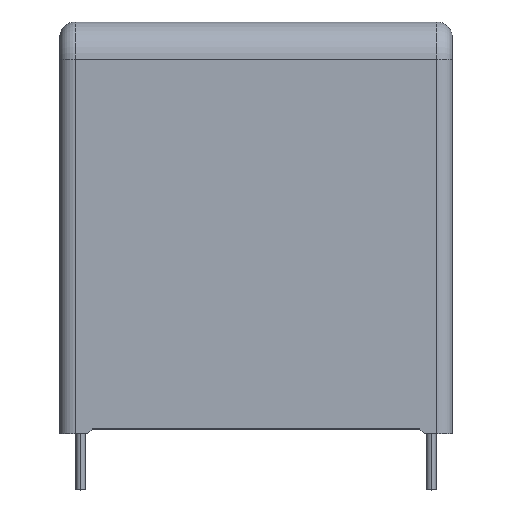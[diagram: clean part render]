
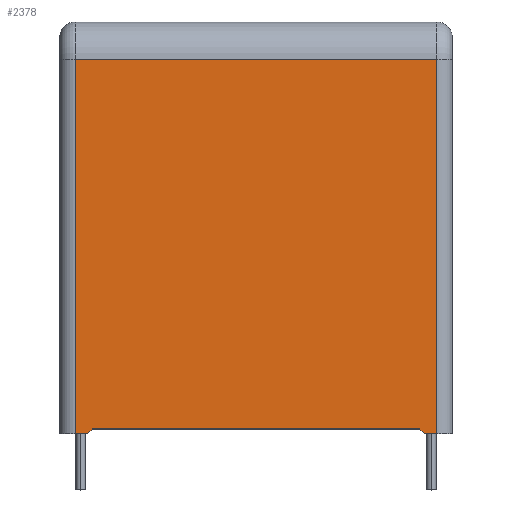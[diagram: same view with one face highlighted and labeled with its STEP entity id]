
A CAD part, top view. The second image highlights one B-rep face of the part: STEP entity #2378.
In plain terms, the highlighted planar face has unit normal (0, 0, 1).
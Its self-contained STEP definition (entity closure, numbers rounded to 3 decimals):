
#267 = EDGE_CURVE ( 'NONE', #4147, #4189, #2902, .T. ) ;
#299 = EDGE_CURVE ( 'NONE', #836, #2116, #2304, .T. ) ;
#308 = PLANE ( 'NONE',  #2598 ) ;
#344 = VERTEX_POINT ( 'NONE', #3074 ) ;
#432 = CARTESIAN_POINT ( 'NONE',  ( -21., 0., 12. ) ) ;
#449 = DIRECTION ( 'NONE',  ( 1., 0., 0. ) ) ;
#456 = LINE ( 'NONE', #4413, #2292 ) ;
#567 = EDGE_CURVE ( 'NONE', #1926, #2116, #3915, .T. ) ;
#633 = CARTESIAN_POINT ( 'NONE',  ( -21., 40., 12. ) ) ;
#754 = DIRECTION ( 'NONE',  ( 0., 1., 0. ) ) ;
#836 = VERTEX_POINT ( 'NONE', #2201 ) ;
#846 = EDGE_CURVE ( 'NONE', #1835, #1926, #1544, .T. ) ;
#1034 = CARTESIAN_POINT ( 'NONE',  ( 19.3, 0., 12. ) ) ;
#1060 = DIRECTION ( 'NONE',  ( -1., 0., 0. ) ) ;
#1134 = EDGE_CURVE ( 'NONE', #344, #1835, #1270, .T. ) ;
#1155 = VECTOR ( 'NONE', #1060, 1000. ) ;
#1249 = VECTOR ( 'NONE', #2141, 1000. ) ;
#1270 = LINE ( 'NONE', #633, #1155 ) ;
#1271 = DIRECTION ( 'NONE',  ( -0.707, 0.707, 0. ) ) ;
#1322 = DIRECTION ( 'NONE',  ( -1., 0., 0. ) ) ;
#1398 = EDGE_CURVE ( 'NONE', #4189, #344, #456, .T. ) ;
#1414 = CARTESIAN_POINT ( 'NONE',  ( -18., 0., 12. ) ) ;
#1475 = VERTEX_POINT ( 'NONE', #4449 ) ;
#1498 = EDGE_LOOP ( 'NONE', ( #3987, #4014, #4050, #4052, #4063, #4135, #4140, #4152 ) ) ;
#1507 = VECTOR ( 'NONE', #1271, 1000. ) ;
#1544 = LINE ( 'NONE', #2198, #1249 ) ;
#1636 = EDGE_CURVE ( 'NONE', #4147, #1475, #1735, .T. ) ;
#1700 = CARTESIAN_POINT ( 'NONE',  ( -18., 0., 12. ) ) ;
#1735 = LINE ( 'NONE', #3030, #1507 ) ;
#1835 = VERTEX_POINT ( 'NONE', #3356 ) ;
#1860 = EDGE_CURVE ( 'NONE', #1475, #836, #2910, .T. ) ;
#1864 = CARTESIAN_POINT ( 'NONE',  ( -21., 44., 12. ) ) ;
#1926 = VERTEX_POINT ( 'NONE', #3986 ) ;
#2063 = VECTOR ( 'NONE', #1322, 1000. ) ;
#2116 = VERTEX_POINT ( 'NONE', #1414 ) ;
#2141 = DIRECTION ( 'NONE',  ( 0., -1., 0. ) ) ;
#2198 = CARTESIAN_POINT ( 'NONE',  ( -19.3, 44., 12. ) ) ;
#2201 = CARTESIAN_POINT ( 'NONE',  ( -17.5, 0.5, 12. ) ) ;
#2226 = DIRECTION ( 'NONE',  ( -1., 0., 0. ) ) ;
#2274 = VECTOR ( 'NONE', #2425, 1000. ) ;
#2292 = VECTOR ( 'NONE', #754, 1000. ) ;
#2304 = LINE ( 'NONE', #1700, #2274 ) ;
#2370 = CARTESIAN_POINT ( 'NONE',  ( -17.5, 0.5, 12. ) ) ;
#2378 = ADVANCED_FACE ( 'NONE', ( #2997 ), #308, .F. ) ;
#2405 = DIRECTION ( 'NONE',  ( 1., 0., 0. ) ) ;
#2425 = DIRECTION ( 'NONE',  ( -0.707, -0.707, 0. ) ) ;
#2429 = CARTESIAN_POINT ( 'NONE',  ( -21., 0., 12. ) ) ;
#2598 = AXIS2_PLACEMENT_3D ( 'NONE', #1864, #4116, #2226 ) ;
#2902 = LINE ( 'NONE', #2429, #2969 ) ;
#2910 = LINE ( 'NONE', #2370, #2063 ) ;
#2969 = VECTOR ( 'NONE', #2405, 1000. ) ;
#2997 = FACE_OUTER_BOUND ( 'NONE', #1498, .T. ) ;
#3030 = CARTESIAN_POINT ( 'NONE',  ( 17.5, 0.5, 12. ) ) ;
#3074 = CARTESIAN_POINT ( 'NONE',  ( 19.3, 40., 12. ) ) ;
#3356 = CARTESIAN_POINT ( 'NONE',  ( -19.3, 40., 12. ) ) ;
#3902 = VECTOR ( 'NONE', #449, 1000. ) ;
#3915 = LINE ( 'NONE', #432, #3902 ) ;
#3986 = CARTESIAN_POINT ( 'NONE',  ( -19.3, 0., 12. ) ) ;
#3987 = ORIENTED_EDGE ( 'NONE', *, *, #1860, .F. ) ;
#4014 = ORIENTED_EDGE ( 'NONE', *, *, #1636, .F. ) ;
#4050 = ORIENTED_EDGE ( 'NONE', *, *, #267, .T. ) ;
#4052 = ORIENTED_EDGE ( 'NONE', *, *, #1398, .T. ) ;
#4063 = ORIENTED_EDGE ( 'NONE', *, *, #1134, .T. ) ;
#4116 = DIRECTION ( 'NONE',  ( 0., 0., -1. ) ) ;
#4135 = ORIENTED_EDGE ( 'NONE', *, *, #846, .T. ) ;
#4140 = ORIENTED_EDGE ( 'NONE', *, *, #567, .T. ) ;
#4147 = VERTEX_POINT ( 'NONE', #4320 ) ;
#4152 = ORIENTED_EDGE ( 'NONE', *, *, #299, .F. ) ;
#4189 = VERTEX_POINT ( 'NONE', #1034 ) ;
#4320 = CARTESIAN_POINT ( 'NONE',  ( 18., 0., 12. ) ) ;
#4413 = CARTESIAN_POINT ( 'NONE',  ( 19.3, 44., 12. ) ) ;
#4449 = CARTESIAN_POINT ( 'NONE',  ( 17.5, 0.5, 12. ) ) ;
